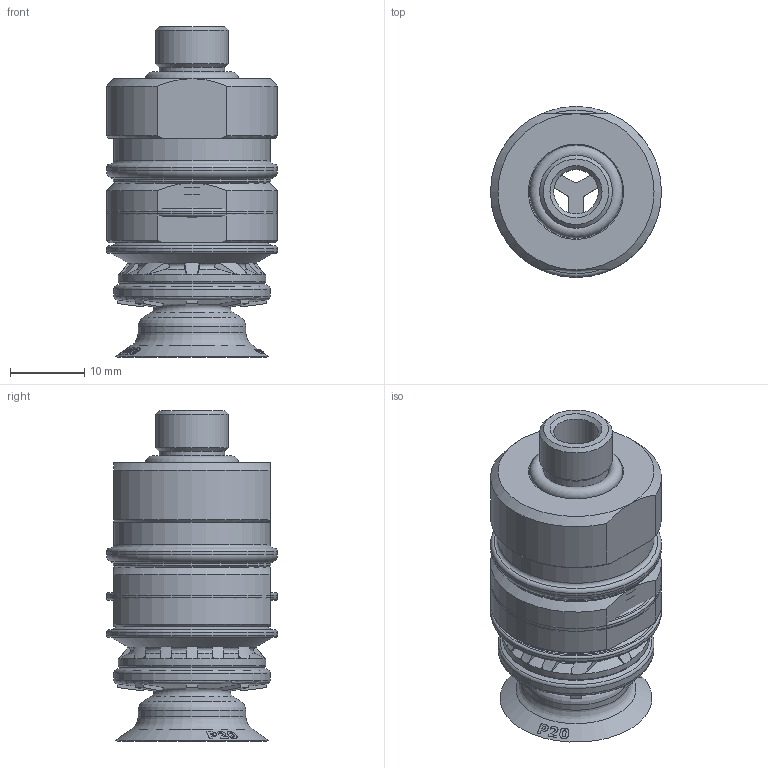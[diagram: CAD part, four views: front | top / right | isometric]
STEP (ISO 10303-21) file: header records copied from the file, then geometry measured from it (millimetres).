
FILE_DESCRIPTION( ( 'Unknown' ), '1' );
FILE_NAME( 'C:/Documents and Settings/Administrator/官帕 拳搁/Magic Cup (Dim)/B2.5/P TYPE/B2.5-20/B2.5-20-P20-N6-D-F2-18M.stp', 'Unknown', ( 'Unknown' ), ( 'Unknown' ), 'XStep 1.0', 'Unknown', ' ' );
FILE_SCHEMA( ( 'automotive_design' ) );
Length unit declared in the file: millimetre
Products named in the file (8): Assem1; Assem2; Assem3; B2.5-20; 20-18M(DIM); 18M-Oring(DIM); 赤20 STOPPER ; P20
Bounding box: 23 x 23 x 44.49 mm (x, y, z)
Volume: 22215.9 mm3; surface area: 28461.8 mm2
Topology: 15 solids, 15 shells, 2088 faces, 5229 edges, 3267 vertices
Faces by surface type: plane 570, bspline 567, cone 420, torus 294, cylinder 237
Full cylindrical faces by diameter (mm): 6 x3, 7.5 x3, 8.8 x3, 9.8 x6, 11 x3, 11.7 x3, 11.9 x6, 12.4 x3, 13 x3, 13.4 x6, 14.475 x3, 14.499 x3, 15 x6, 15.673 x3, 15.7 x3, 16 x3, 17 x3, 17.5 x3, 17.527 x3, 19.8 x3, 21 x6, 21.18 x3, 23 x9
Entity records: 27081 total; most frequent: CARTESIAN_POINT 12966, ORIENTED_EDGE 3254, DIRECTION 2174, EDGE_CURVE 1627, VERTEX_POINT 1080, AXIS2_PLACEMENT_3D 976, B_SPLINE_CURVE_WITH_KNOTS 944, EDGE_LOOP 847
